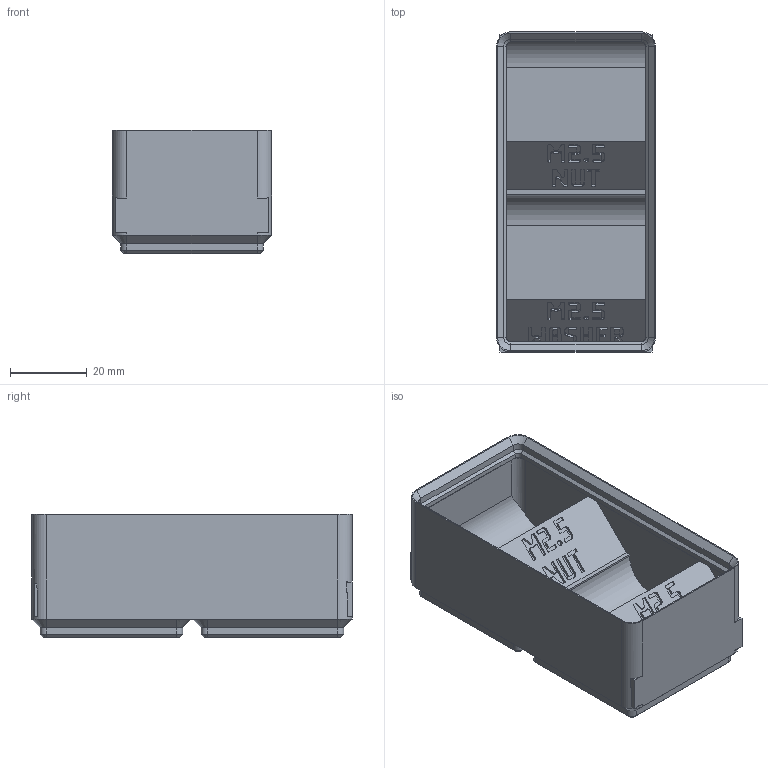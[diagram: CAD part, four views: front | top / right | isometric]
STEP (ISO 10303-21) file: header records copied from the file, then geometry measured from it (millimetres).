
FILE_DESCRIPTION(('Open CASCADE Model'),'2;1');
FILE_NAME('Open CASCADE Shape Model','2026-11-03T10:59:37',('Author'),( 'Open CASCADE'),'Open CASCADE STEP processor 8.0','build123d', 'Unknown');
FILE_SCHEMA(('AUTOMOTIVE_DESIGN { 1 0 10303 214 1 1 1 1 }'));
Products named in the file (1): COMPOUND
Bounding box: 41.5 x 83.5 x 32.1 mm (x, y, z)
Volume: 30723.6 mm3; surface area: 23958.7 mm2
Topology: 1 solids, 1 shells, 1769 faces, 5161 edges, 3418 vertices
Faces by surface type: plane 1711, cylinder 30, cone 28
Entity records: 124296 total; most frequent: CARTESIAN_POINT 21305, DIRECTION 18769, LINE 15017, VECTOR 15017, ORIENTED_EDGE 10322, PCURVE 10322, DEFINITIONAL_REPRESENTATION 10322, EDGE_CURVE 5161
